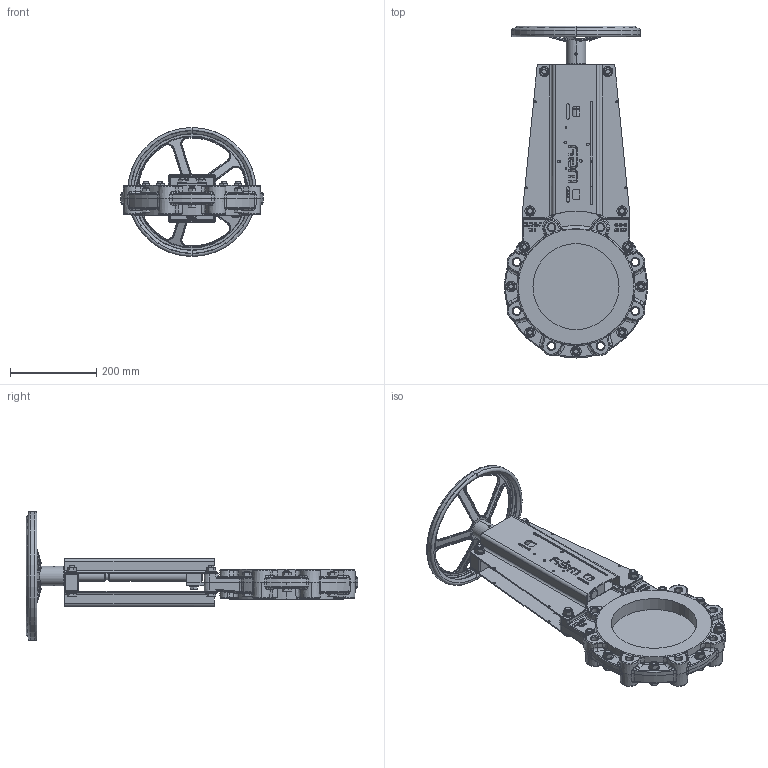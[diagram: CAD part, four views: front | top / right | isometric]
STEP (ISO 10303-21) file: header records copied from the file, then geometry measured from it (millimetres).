
FILE_DESCRIPTION (( 'STEP AP203' ), '1' );
FILE_NAME ('VMA DN 200 DH300.step', '2013-09-30T09:14:45', ( 'admin' ), ( '' ), 'SwSTEP 2.0', 'SolidWorks 2013', '' );
FILE_SCHEMA (( 'CONFIG_CONTROL_DESIGN' ));
Length unit declared in the file: millimetre
Products named in the file (1): VMA DN 200 DH300
Bounding box: 332 x 771.5 x 300 mm (x, y, z)
Volume: 5067074.7 mm3; surface area: 1035307.3 mm2
Topology: 53 solids, 54 shells, 3035 faces, 7423 edges, 4510 vertices
Faces by surface type: plane 1095, cylinder 706, bspline 580, cone 461, torus 193
Entity records: 119515 total; most frequent: CARTESIAN_POINT 52246, ORIENTED_EDGE 14666, DIRECTION 12840, EDGE_CURVE 7333, AXIS2_PLACEMENT_3D 4854, VERTEX_POINT 4510, EDGE_LOOP 3359, VECTOR 3132
